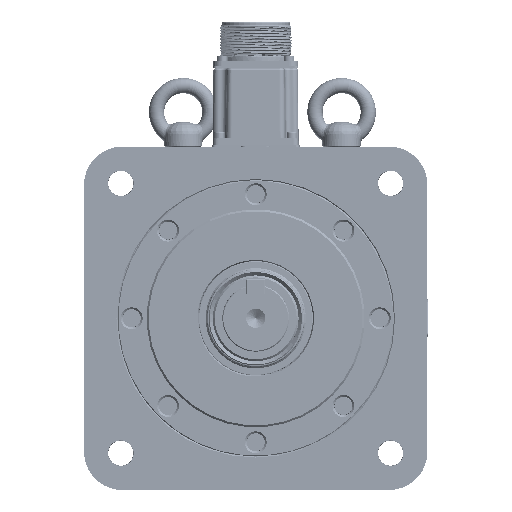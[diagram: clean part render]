
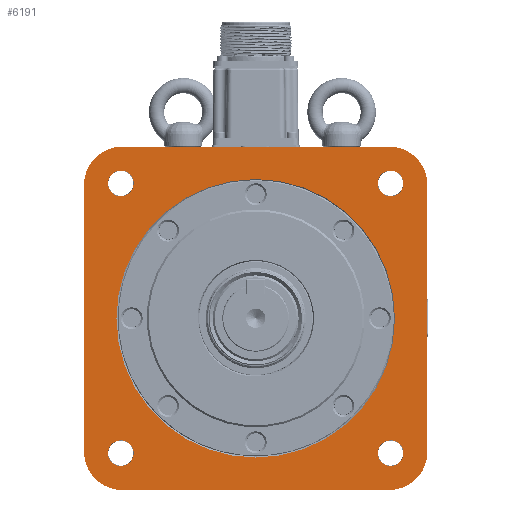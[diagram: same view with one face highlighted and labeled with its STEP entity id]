
A CAD part, front view. The second image highlights one B-rep face of the part: STEP entity #6191.
In plain terms, the highlighted planar face has unit normal (0, -1, 0).
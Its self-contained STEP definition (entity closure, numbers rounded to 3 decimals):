
#6191 = ADVANCED_FACE( '', ( #13021, #13022, #13023, #13024, #13025, #13026 ), #13027, .F. );
#13021 = FACE_BOUND( '', #31058, .T. );
#13022 = FACE_BOUND( '', #31059, .T. );
#13023 = FACE_BOUND( '', #31060, .T. );
#13024 = FACE_BOUND( '', #31061, .T. );
#13025 = FACE_BOUND( '', #31062, .T. );
#13026 = FACE_OUTER_BOUND( '', #31063, .T. );
#13027 = PLANE( '', #31064 );
#31058 = EDGE_LOOP( '', ( #52951 ) );
#31059 = EDGE_LOOP( '', ( #52952 ) );
#31060 = EDGE_LOOP( '', ( #52953 ) );
#31061 = EDGE_LOOP( '', ( #52954 ) );
#31062 = EDGE_LOOP( '', ( #52955 ) );
#31063 = EDGE_LOOP( '', ( #52956, #52957, #52958, #52959, #52960, #52961, #52962, #52963 ) );
#31064 = AXIS2_PLACEMENT_3D( '', #52964, #52965, #52966 );
#52951 = ORIENTED_EDGE( '', *, *, #66447, .T. );
#52952 = ORIENTED_EDGE( '', *, *, #65355, .F. );
#52953 = ORIENTED_EDGE( '', *, *, #66448, .F. );
#52954 = ORIENTED_EDGE( '', *, *, #62737, .F. );
#52955 = ORIENTED_EDGE( '', *, *, #66028, .F. );
#52956 = ORIENTED_EDGE( '', *, *, #66449, .T. );
#52957 = ORIENTED_EDGE( '', *, *, #65982, .T. );
#52958 = ORIENTED_EDGE( '', *, *, #66450, .T. );
#52959 = ORIENTED_EDGE( '', *, *, #66451, .T. );
#52960 = ORIENTED_EDGE( '', *, *, #66452, .T. );
#52961 = ORIENTED_EDGE( '', *, *, #64290, .T. );
#52962 = ORIENTED_EDGE( '', *, *, #66453, .T. );
#52963 = ORIENTED_EDGE( '', *, *, #66024, .T. );
#52964 = CARTESIAN_POINT( '', ( 0., 1.3, 72.5 ) );
#52965 = DIRECTION( '', ( 0., 1., 0. ) );
#52966 = DIRECTION( '', ( 0., 0., 1. ) );
#62737 = EDGE_CURVE( '', #71972, #71972, #71973, .F. );
#64290 = EDGE_CURVE( '', #74421, #74422, #74423, .F. );
#65355 = EDGE_CURVE( '', #76008, #76008, #76009, .F. );
#65982 = EDGE_CURVE( '', #76861, #76862, #76863, .F. );
#66024 = EDGE_CURVE( '', #76917, #76918, #76919, .F. );
#66028 = EDGE_CURVE( '', #76923, #76923, #76924, .F. );
#66447 = EDGE_CURVE( '', #77462, #77462, #77463, .T. );
#66448 = EDGE_CURVE( '', #77464, #77464, #77465, .F. );
#66449 = EDGE_CURVE( '', #76918, #76861, #77466, .T. );
#66450 = EDGE_CURVE( '', #76862, #77467, #77468, .T. );
#66451 = EDGE_CURVE( '', #77467, #77469, #77470, .F. );
#66452 = EDGE_CURVE( '', #77469, #74421, #77471, .T. );
#66453 = EDGE_CURVE( '', #74422, #76917, #77472, .T. );
#71972 = VERTEX_POINT( '', #87859 );
#71973 = CIRCLE( '', #87860, 6.745 );
#74421 = VERTEX_POINT( '', #94458 );
#74422 = VERTEX_POINT( '', #94459 );
#74423 = CIRCLE( '', #94460, 20. );
#76008 = VERTEX_POINT( '', #100379 );
#76009 = CIRCLE( '', #100380, 6.745 );
#76861 = VERTEX_POINT( '', #102539 );
#76862 = VERTEX_POINT( '', #102540 );
#76863 = CIRCLE( '', #102541, 20. );
#76917 = VERTEX_POINT( '', #102617 );
#76918 = VERTEX_POINT( '', #102618 );
#76919 = CIRCLE( '', #102619, 20. );
#76923 = VERTEX_POINT( '', #102625 );
#76924 = CIRCLE( '', #102626, 6.745 );
#77462 = VERTEX_POINT( '', #104139 );
#77463 = CIRCLE( '', #104140, 73. );
#77464 = VERTEX_POINT( '', #104141 );
#77465 = CIRCLE( '', #104142, 6.745 );
#77466 = LINE( '', #104143, #104144 );
#77467 = VERTEX_POINT( '', #104145 );
#77468 = LINE( '', #104146, #104147 );
#77469 = VERTEX_POINT( '', #104148 );
#77470 = CIRCLE( '', #104149, 20. );
#77471 = LINE( '', #104150, #104151 );
#77472 = LINE( '', #104152, #104153 );
#87859 = CARTESIAN_POINT( '', ( 70.711, 1.3, -63.966 ) );
#87860 = AXIS2_PLACEMENT_3D( '', #111015, #111016, #111017 );
#94458 = CARTESIAN_POINT( '', ( 90., 1.3, 70. ) );
#94459 = CARTESIAN_POINT( '', ( 70., 1.3, 90. ) );
#94460 = AXIS2_PLACEMENT_3D( '', #112876, #112877, #112878 );
#100379 = CARTESIAN_POINT( '', ( -70.711, 1.3, 77.455 ) );
#100380 = AXIS2_PLACEMENT_3D( '', #114167, #114168, #114169 );
#102539 = CARTESIAN_POINT( '', ( -90., 1.3, -70. ) );
#102540 = CARTESIAN_POINT( '', ( -70., 1.3, -90. ) );
#102541 = AXIS2_PLACEMENT_3D( '', #114824, #114825, #114826 );
#102617 = CARTESIAN_POINT( '', ( -70., 1.3, 90. ) );
#102618 = CARTESIAN_POINT( '', ( -90., 1.3, 70. ) );
#102619 = AXIS2_PLACEMENT_3D( '', #114870, #114871, #114872 );
#102625 = CARTESIAN_POINT( '', ( -70.711, 1.3, -63.966 ) );
#102626 = AXIS2_PLACEMENT_3D( '', #114875, #114876, #114877 );
#104139 = CARTESIAN_POINT( '', ( 0., 1.3, 73. ) );
#104140 = AXIS2_PLACEMENT_3D( '', #115281, #115282, #115283 );
#104141 = CARTESIAN_POINT( '', ( 70.711, 1.3, 77.455 ) );
#104142 = AXIS2_PLACEMENT_3D( '', #115284, #115285, #115286 );
#104143 = CARTESIAN_POINT( '', ( -90., 1.3, 90. ) );
#104144 = VECTOR( '', #115287, 1000. );
#104145 = CARTESIAN_POINT( '', ( 70., 1.3, -90. ) );
#104146 = CARTESIAN_POINT( '', ( -90., 1.3, -90. ) );
#104147 = VECTOR( '', #115288, 1000. );
#104148 = CARTESIAN_POINT( '', ( 90., 1.3, -70. ) );
#104149 = AXIS2_PLACEMENT_3D( '', #115289, #115290, #115291 );
#104150 = CARTESIAN_POINT( '', ( 90., 1.3, -90. ) );
#104151 = VECTOR( '', #115292, 1000. );
#104152 = CARTESIAN_POINT( '', ( 90., 1.3, 90. ) );
#104153 = VECTOR( '', #115293, 1000. );
#111015 = CARTESIAN_POINT( '', ( 70.711, 1.3, -70.711 ) );
#111016 = DIRECTION( '', ( 0., 1., 0. ) );
#111017 = DIRECTION( '', ( 0., 0., 1. ) );
#112876 = CARTESIAN_POINT( '', ( 70., 1.3, 70. ) );
#112877 = DIRECTION( '', ( 0., 1., 0. ) );
#112878 = DIRECTION( '', ( 0., 0., 1. ) );
#114167 = CARTESIAN_POINT( '', ( -70.711, 1.3, 70.711 ) );
#114168 = DIRECTION( '', ( 0., 1., 0. ) );
#114169 = DIRECTION( '', ( 0., 0., 1. ) );
#114824 = CARTESIAN_POINT( '', ( -70., 1.3, -70. ) );
#114825 = DIRECTION( '', ( 0., 1., 0. ) );
#114826 = DIRECTION( '', ( 0., 0., 1. ) );
#114870 = CARTESIAN_POINT( '', ( -70., 1.3, 70. ) );
#114871 = DIRECTION( '', ( 0., 1., 0. ) );
#114872 = DIRECTION( '', ( 0., 0., 1. ) );
#114875 = CARTESIAN_POINT( '', ( -70.711, 1.3, -70.711 ) );
#114876 = DIRECTION( '', ( 0., 1., 0. ) );
#114877 = DIRECTION( '', ( 0., 0., 1. ) );
#115281 = CARTESIAN_POINT( '', ( 0., 1.3, 0. ) );
#115282 = DIRECTION( '', ( 0., 1., 0. ) );
#115283 = DIRECTION( '', ( 0., 0., 1. ) );
#115284 = CARTESIAN_POINT( '', ( 70.711, 1.3, 70.711 ) );
#115285 = DIRECTION( '', ( 0., 1., 0. ) );
#115286 = DIRECTION( '', ( 0., 0., 1. ) );
#115287 = DIRECTION( '', ( 0., 0., -1. ) );
#115288 = DIRECTION( '', ( 1., 0., 0. ) );
#115289 = CARTESIAN_POINT( '', ( 70., 1.3, -70. ) );
#115290 = DIRECTION( '', ( 0., 1., 0. ) );
#115291 = DIRECTION( '', ( 0., 0., 1. ) );
#115292 = DIRECTION( '', ( 0., 0., 1. ) );
#115293 = DIRECTION( '', ( -1., 0., 0. ) );
